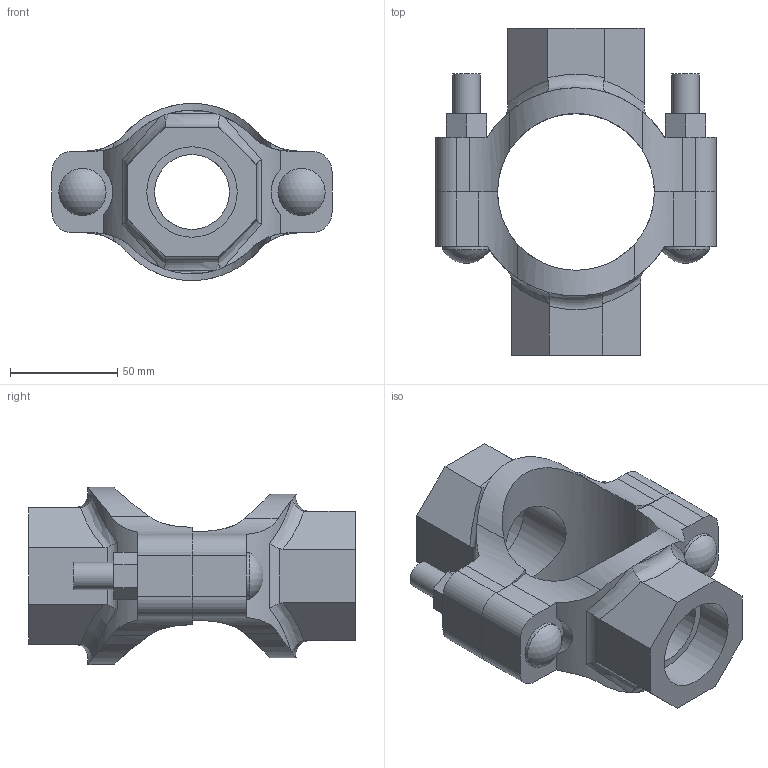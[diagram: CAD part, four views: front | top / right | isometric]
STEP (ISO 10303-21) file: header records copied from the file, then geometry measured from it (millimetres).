
FILE_DESCRIPTION(/* description */ ('VIC MECH-T BRANCH OUTLET CROSS STYLE 920N (THD)','CAx-IF Rec.Pracs.---Representation and Presentation of Product Manufacturing Information (PMI)---4.0---2014-10-13'),/* implementation_level */ '2;1');
FILE_NAME(/* name */ 'C:\Users\Vjadhav\AppData\Roaming\Autodesk\ApplicationPlugins\Back Up\Victaulic_IPS_Mechanical-Cross Outlet_Style 920N (FPT)\Victaulic_IPS_Mechanical-Cross Outlet_02.5x01.5x01.25 (65x40x32).stp',/* time_stamp */ '2020-08-06T18:56:50+05:00',/* author */ ('Vjadhav'),/* organization */ ('Victaulic'),/* preprocessor_version */ 'ST-DEVELOPER v17.2',/* originating_system */ 'Autodesk Inventor 2019',/* authorisation */ '');
FILE_SCHEMA (('AP242_MANAGED_MODEL_BASED_3D_ENGINEERING_MIM_LF { 1 0 10303 442 1 1 4 }'));
Length unit declared in the file: inch
Products named in the file (3): 920NT-02.5x01.5x01.25; 920NT-02.5x01.5; 920NT-02.5x01.25
Assembly tree (2 placements, depth 2):
  920NT-02.5x01.5x01.25
    920NT-02.5x01.5
    920NT-02.5x01.25
Bounding box: 130.56 x 152.4 x 82.55 mm (x, y, z)
Volume: 339096.8 mm3; surface area: 80412.3 mm2
Topology: 2 solids, 2 shells, 135 faces, 362 edges, 244 vertices
Faces by surface type: plane 68, cylinder 53, bspline 8, torus 4, sphere 2
Full cylindrical faces by diameter (mm): 12.7 x4, 21.982 x2, 34.925 x1, 41.275 x1, 42.164 x1, 48.26 x1
Entity records: 5287 total; most frequent: CARTESIAN_POINT 1696, ORIENTED_EDGE 724, DIRECTION 654, EDGE_CURVE 362, VERTEX_POINT 244, AXIS2_PLACEMENT_3D 234, LINE 186, VECTOR 186
